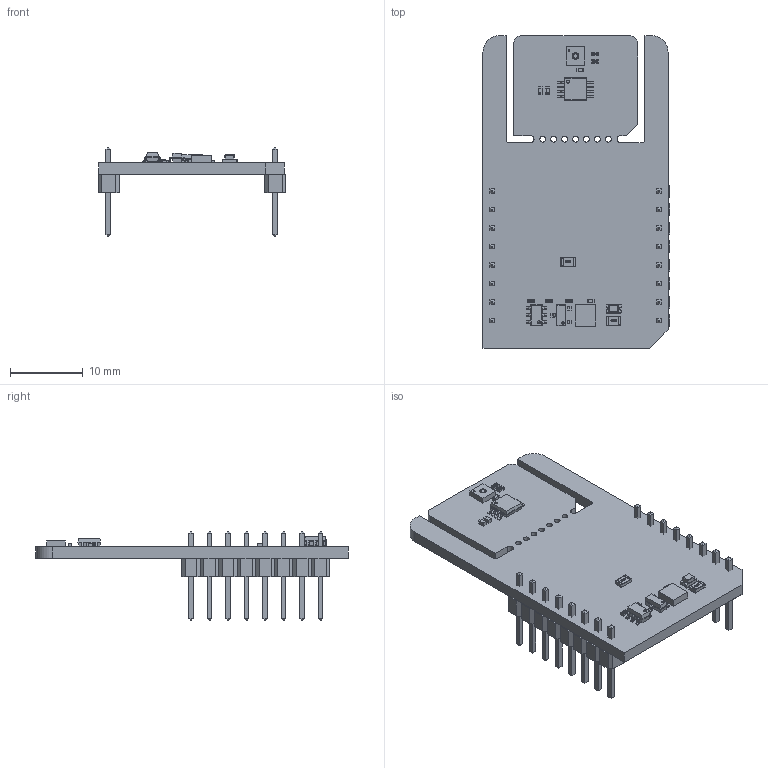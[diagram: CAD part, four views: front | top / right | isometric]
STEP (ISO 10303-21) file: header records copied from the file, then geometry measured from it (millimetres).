
FILE_DESCRIPTION(('Open CASCADE Model'),'2;1');
FILE_NAME('Open CASCADE Shape Model','2025-12-01T11:44:26',('Author'),( 'Open CASCADE'),'Open CASCADE STEP processor 7.5','Open CASCADE 7.5' ,'Unknown');
FILE_SCHEMA(('AUTOMOTIVE_DESIGN { 1 0 10303 214 1 1 1 1 }'));
Length unit declared in the file: millimetre
Products named in the file (46): PCB; Board; Open CASCADE STEP translator 7.5 1.1.1; U4; User Library-TSSOP-8 3_1x3_1; User Library-TSSOP-8 3.1x3.1_pin_TSSOP_tssop_1; User Library-TSSOP-8 3.1x3.1_body_TSSOP_TSSOP_3.1x3.1_1; U3; 7489119744; Cylinder; 7489119504; 7489119344; Extruded; 7489119104; R6; User Library-R_0402; R5; C4; User Library-SMD CAPACITOR0402; C3; C2; R1; User Library-R_0805; R3; LD1; led_0805_green; R2; C1; R4; Q1; SOT23-3; U1; 7489120304; U2; User Library-SOT23-6-2; MBD1; Header 1x8; Free-Models; 1240637040; User_Library-PinHeaderX5-1_PinHeaderX5_Body_1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
Assembly tree (62 placements, depth 7):
  PCB
    Board
      Open CASCADE STEP translator 7.5 1.1.1
    U4
      User Library-TSSOP-8 3_1x3_1
        User Library-TSSOP-8 3.1x3.1_pin_TSSOP_tssop_1  x8
        User Library-TSSOP-8 3.1x3.1_body_TSSOP_TSSOP_3.1x3.1_1
    U3
      7489119744
        Cylinder
      7489119504
        Cylinder
      7489119344
        Extruded
      7489119104
        Cylinder
    R6
      User Library-R_0402
    R5
      User Library-R_0402
    C4
      User Library-SMD CAPACITOR0402
    C3
      User Library-SMD CAPACITOR0402
    C2
      User Library-SMD CAPACITOR0402
    R1
      User Library-R_0805
    R3
      User Library-R_0402
    LD1
      led_0805_green
    R2
      User Library-R_0402
    C1
      User Library-SMD CAPACITOR0402
    R4
      User Library-R_0402
    Q1
      SOT23-3
    U1
      7489120304
        Extruded
    U2
      User Library-SOT23-6-2
    MBD1
      Header 1x8  x2
        PCB
          Free-Models
            1240637040  x2
              User_Library-PinHeaderX5-1_PinHeaderX5_Body_1
              User_Library-PinHeaderX5-1_PinHeaderX5_Pins_1
    JP1
      User Library-R_0805
Bounding box: 25.78 x 42.93 x 12.19 mm (x, y, z)
Volume: 2165.2 mm3; surface area: 3949.1 mm2
Topology: 58 solids, 58 shells, 1651 faces, 4121 edges, 2614 vertices
Faces by surface type: plane 1234, bspline 214, cylinder 163, sphere 40
Full cylindrical faces by diameter (mm): 0.2 x1, 0.613 x1, 0.8 x7, 0.912 x1
Entity records: 26627 total; most frequent: CARTESIAN_POINT 7673, ORIENTED_EDGE 3148, DIRECTION 2884, EDGE_CURVE 1574, LINE 1254, VECTOR 1254, VERTEX_POINT 1004, AXIS2_PLACEMENT_3D 815
